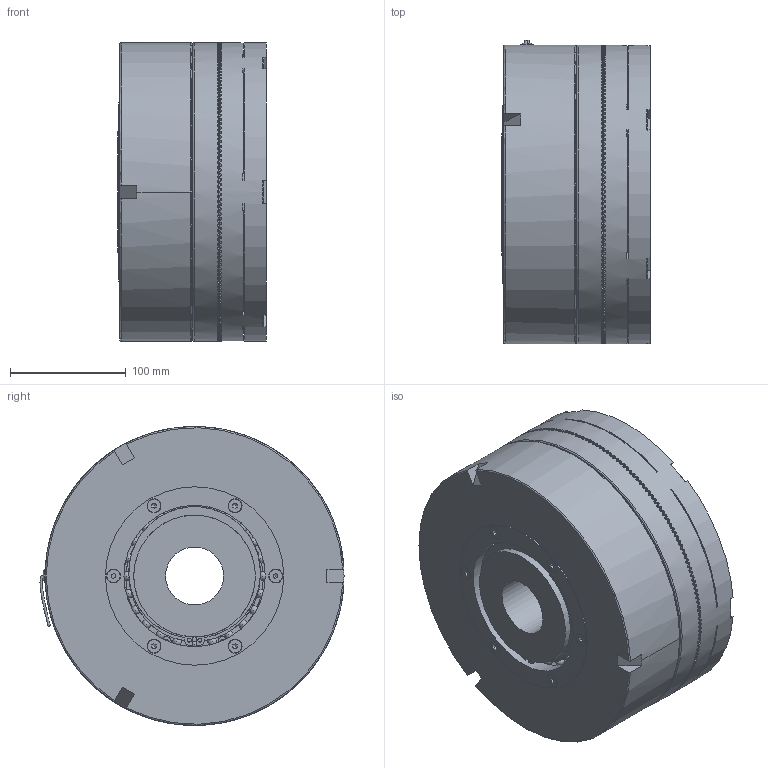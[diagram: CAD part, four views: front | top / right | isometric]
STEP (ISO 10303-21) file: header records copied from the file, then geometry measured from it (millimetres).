
FILE_DESCRIPTION(/* description */ (''),/* implementation_level */ '2;1');
FILE_NAME(/* name */ 'T:\INVENTOR\DISEGNI\07_Innesti_Elettmag_a_Dentini\07_05 ESB_Z\07_05_260_01 ESB260_Z\07_05_260_01 ESB260_Z@STEP.stp',/* time_stamp */ '2021-02-15T10:41:56+01:00',/* author */ ('w.sartori'),/* organization */ (''),/* preprocessor_version */ 'ST-DEVELOPER v18.1',/* originating_system */ 'Autodesk Inventor 2021',/* authorisation */ '');
FILE_SCHEMA (('AUTOMOTIVE_DESIGN { 1 0 10303 214 3 1 1 }'));
Products named in the file (1): 07_05_260_01 ESB260_Z
Bounding box: 128.5 x 262.44 x 258 mm (x, y, z)
Volume: 5512578.3 mm3; surface area: 578561.6 mm2
Topology: 8 solids, 26 shells, 2436 faces, 7410 edges, 4904 vertices
Faces by surface type: plane 1874, cylinder 208, torus 163, sphere 72, bspline 69, cone 50
Full cylindrical faces by diameter (mm): 3.5 x2, 4 x3, 4.4 x6, 4.917 x18, 6 x6, 6.5 x6, 7.9 x6, 8.5 x6, 10.5 x48, 11 x1, 11.34 x6, 12 x12, 13 x6, 50 x1, 101 x1, 105 x5, 112 x1, 113 x4, 122 x4, 129 x1, 129.8 x1, 130 x6, 135 x1, 154 x2, 179 x2, 208 x1, 215 x1, 232 x2, 238 x1, 239 x1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
Entity records: 101886 total; most frequent: CARTESIAN_POINT 30969, DIRECTION 15351, ORIENTED_EDGE 14498, EDGE_CURVE 7249, AXIS2_PLACEMENT_3D 6538, VERTEX_POINT 4904, EDGE_LOOP 2785, FACE_OUTER_BOUND 2436
